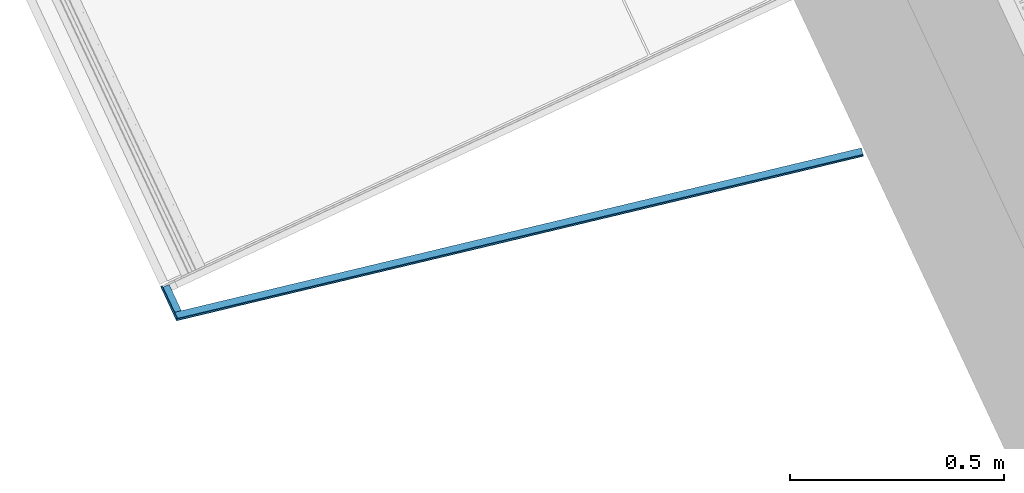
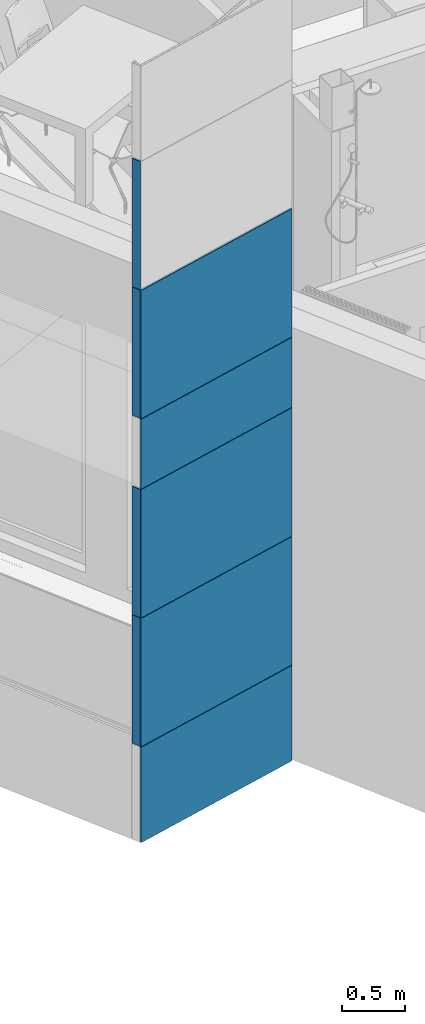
# One storey, part 9 of 125: 18 building element parts, 2 elements without a shape of their own.
"""IFC2X3 building model written with IfcOpenShell, lengths in millimetres."""

from ifc_helpers import new_model, entity, si_unit, converted_unit, direction, frame, origin, place, context, subcontext, project, spatial, polyline, outline, extrude, material, type_object, element, aggregate, save


model = new_model("IFC2X3")

# Units and contexts
model_context = context("Model", 3, precision=0.01, world=origin(), true_north=direction((6.123233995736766e-17, 1.0)))
plan_context = context("Plan", 3, precision=0.01, world=origin(), true_north=direction((6.123233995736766e-17, 1.0)))
body_context = subcontext(model_context, "Body", "Model", "MODEL_VIEW")
ifc_project = project(units=[si_unit("LENGTHUNIT", "METRE", prefix="MILLI"), converted_unit("PLANEANGLEUNIT", "DEGREE", entity("IfcPlaneAngleMeasure", 0.017453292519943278), si_unit("PLANEANGLEUNIT", "RADIAN"), dimensions=[0, 0, 0, 0, 0, 0, 0]), si_unit("AREAUNIT", "SQUARE_METRE")], contexts=[model_context, plan_context])

# Site, building, storey
site_placement = place(None, origin())
site = spatial("IfcSite", under=ifc_project, at=site_placement, Name="Default", CompositionType="ELEMENT")
building_placement = place(site_placement, origin())
building = spatial("IfcBuilding", under=site, at=building_placement, CompositionType="ELEMENT")
storey_placement = place(building_placement, frame((0.0, 0.0, 3125.0)))
storey = spatial("IfcBuildingStorey", under=building, at=storey_placement, Name="2K", CompositionType="ELEMENT", Elevation=3125.0)

# Wall, building element parts
wall_type = type_object("IfcWallType", Name="Basic Wall:VS-komposiit", PredefinedType="STANDARD")
wall_1_placement = place(storey_placement, frame((-2106.893259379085, 7897.753671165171, -1010.0), z_axis=(0.0, 0.0, 1.0), x_axis=(-0.9725243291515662, -0.23280126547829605, 0.0)))
wall_1 = element("IfcWall", 1, at=wall_1_placement, inside=storey, type_object=wall_type, Name="Basic Wall:VS-komposiit", ObjectType="Basic Wall:VS-komposiit")
ifc_material_1 = material(Name="_K. Õhk. Roov. Fassaadikatte alusroov. Horisontaalne. 25 mm")
building_element_part_1_placement = place(wall_1_placement, origin())
building_element_part_1 = element("IfcBuildingElementPart", 2, at=building_element_part_1_placement, material=ifc_material_1, Name="Part", context=body_context, shape_type="SweptSolid", body=[
    extrude(outline(polyline([(-823.1816052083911, -8.0), (824.8314718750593, -8.0), (821.5317385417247, 8.0), (-823.1816052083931, 8.0), (-823.1816052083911, -8.0)])), frame((823.1816052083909, -2.0, 2172.4999999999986)), (0.0, 0.0, 1.0), 1240.0000000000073),
])
building_element_part_2_placement = place(wall_1_placement, origin())
building_element_part_2 = element("IfcBuildingElementPart", 3, at=building_element_part_2_placement, material=ifc_material_1, Name="Part", context=body_context, shape_type="SweptSolid", body=[
    extrude(outline(polyline([(-823.1816052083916, -8.0), (824.8314718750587, -8.0), (821.5317385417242, 8.0), (-823.1816052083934, 8.0), (-823.1816052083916, -8.0)])), frame((823.181605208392, -2.0, 927.4999999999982)), (0.0, 0.0, 1.0), 1240.0000000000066),
])
building_element_part_3_placement = place(wall_1_placement, origin())
building_element_part_3 = element("IfcBuildingElementPart", 4, at=building_element_part_3_placement, material=ifc_material_1, Name="Part", context=body_context, shape_type="SweptSolid", body=[
    extrude(outline(polyline([(-823.1816052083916, -8.0), (824.8314718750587, -8.0), (821.5317385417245, 8.0), (-823.1816052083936, 8.0), (-823.1816052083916, -8.0)])), frame((823.181605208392, -2.0, 4097.499999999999)), (0.0, 0.0, 1.0), 1240.000000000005),
])
building_element_part_4_placement = place(wall_1_placement, origin())
building_element_part_4 = element("IfcBuildingElementPart", 5, at=building_element_part_4_placement, material=ifc_material_1, Name="Part", context=body_context, shape_type="SweptSolid", body=[
    extrude(outline(polyline([(-823.1816052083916, -8.0), (824.8314718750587, -8.0), (821.5317385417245, 8.0), (-823.1816052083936, 8.0), (-823.1816052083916, -8.0)])), frame((823.181605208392, -2.0, 3417.500000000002)), (0.0, 0.0, 1.0), 675.0000000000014),
])
building_element_part_5_placement = place(wall_1_placement, origin())
building_element_part_5 = element("IfcBuildingElementPart", 6, at=building_element_part_5_placement, material=ifc_material_1, Name="Part", context=body_context, shape_type="SweptSolid", body=[
    extrude(outline(polyline([(-823.1816052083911, -8.0), (824.8314718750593, -8.0), (821.5317385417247, 8.0), (-823.1816052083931, 8.0), (-823.1816052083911, -8.0)])), frame((823.1816052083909, -2.0, 0.0)), (0.0, 0.0, 1.0), 922.5000000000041),
])
ifc_material_2 = material(Name="_K. Välisviimistlus. Alumiinium-komposiitplaat")
building_element_part_6_placement = place(wall_1_placement, origin())
building_element_part_6 = element("IfcBuildingElementPart", 7, at=building_element_part_6_placement, material=ifc_material_2, Name="Part", context=body_context, shape_type="SweptSolid", body=[
    extrude(outline(polyline([(-824.1925278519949, -2.0), (824.6049945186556, -2.0), (823.7800611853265, 2.0), (-824.1925278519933, 2.0), (-824.1925278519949, -2.0)])), frame((824.1925278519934, 8.0, 2172.4999999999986)), (0.0, 0.0, 1.0), 1240.000000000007),
])
building_element_part_7_placement = place(wall_1_placement, origin())
building_element_part_7 = element("IfcBuildingElementPart", 8, at=building_element_part_7_placement, material=ifc_material_2, Name="Part", context=body_context, shape_type="SweptSolid", body=[
    extrude(outline(polyline([(-824.1925278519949, -2.0), (824.6049945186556, -2.0), (823.7800611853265, 2.0), (-824.1925278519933, 2.0), (-824.1925278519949, -2.0)])), frame((824.1925278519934, 8.0, 927.4999999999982)), (0.0, 0.0, 1.0), 1240.0000000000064),
])
building_element_part_8_placement = place(wall_1_placement, origin())
building_element_part_8 = element("IfcBuildingElementPart", 9, at=building_element_part_8_placement, material=ifc_material_2, Name="Part", context=body_context, shape_type="SweptSolid", body=[
    extrude(outline(polyline([(-824.1925278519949, -2.0), (824.6049945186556, -2.0), (823.7800611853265, 2.0), (-824.1925278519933, 2.0), (-824.1925278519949, -2.0)])), frame((824.1925278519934, 8.0, 4097.499999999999)), (0.0, 0.0, 1.0), 1240.0000000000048),
])
building_element_part_9_placement = place(wall_1_placement, origin())
building_element_part_9 = element("IfcBuildingElementPart", 10, at=building_element_part_9_placement, material=ifc_material_2, Name="Part", context=body_context, shape_type="SweptSolid", body=[
    extrude(outline(polyline([(-824.1925278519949, -2.0), (824.6049945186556, -2.0), (823.7800611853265, 2.0), (-824.1925278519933, 2.0), (-824.1925278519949, -2.0)])), frame((824.1925278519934, 8.0, 3417.500000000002)), (0.0, 0.0, 1.0), 675.0000000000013),
])
building_element_part_10_placement = place(wall_1_placement, origin())
building_element_part_10 = element("IfcBuildingElementPart", 11, at=building_element_part_10_placement, material=ifc_material_2, Name="Part", context=body_context, shape_type="SweptSolid", body=[
    extrude(outline(polyline([(-824.192527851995, -2.0), (824.6049945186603, -2.0), (823.7800611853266, 2.0), (-824.1925278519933, 2.0), (-824.192527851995, -2.0)])), frame((824.1925278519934, 8.0, 0.0)), (0.0, 0.0, 1.0), 922.5000000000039),
])
aggregate(wall_1, [building_element_part_1, building_element_part_2, building_element_part_3, building_element_part_4, building_element_part_5, building_element_part_6, building_element_part_7, building_element_part_8, building_element_part_9, building_element_part_10])

wall_2_placement = place(storey_placement, frame((-3705.120810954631, 7523.378231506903, -1010.0), z_axis=(0.0, 0.0, 1.0), x_axis=(-0.4244360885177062, 0.9054578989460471, 0.0)))
wall_2 = element("IfcWall", 12, at=wall_2_placement, inside=storey, type_object=wall_type, Name="Basic Wall:VS-komposiit", ObjectType="Basic Wall:VS-komposiit")
building_element_part_11_placement = place(wall_2_placement, origin())
building_element_part_11 = element("IfcBuildingElementPart", 13, at=building_element_part_11_placement, material=ifc_material_1, Name="Part", context=body_context, shape_type="SweptSolid", body=[
    extrude(outline(polyline([(-34.7128112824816, -8.0), (33.062944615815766, -8.0), (33.06294461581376, 8.0), (-31.413077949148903, 8.0), (-34.7128112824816, -8.0)])), frame((34.712811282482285, -2.0, 2172.5)), (0.0, 0.0, 1.0), 1240.0000000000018),
])
building_element_part_12_placement = place(wall_2_placement, origin())
building_element_part_12 = element("IfcBuildingElementPart", 14, at=building_element_part_12_placement, material=ifc_material_1, Name="Part", context=body_context, shape_type="SweptSolid", body=[
    extrude(outline(polyline([(-34.7128112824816, -8.0), (33.062944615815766, -8.0), (33.06294461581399, 8.0), (-31.413077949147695, 8.0), (-34.7128112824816, -8.0)])), frame((34.712811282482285, -2.0, 927.5000000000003)), (0.0, 0.0, 1.0), 1240.0000000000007),
])
building_element_part_13_placement = place(wall_2_placement, origin())
building_element_part_13 = element("IfcBuildingElementPart", 15, at=building_element_part_13_placement, material=ifc_material_1, Name="Part", context=body_context, shape_type="SweptSolid", body=[
    extrude(outline(polyline([(-34.7128112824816, -8.0), (33.062944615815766, -8.0), (33.06294461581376, 8.0), (-31.413077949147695, 8.0), (-34.7128112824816, -8.0)])), frame((34.712811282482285, -2.0, 5342.499999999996)), (0.0, 0.0, 1.0), 1240.0000000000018),
])
building_element_part_14_placement = place(wall_2_placement, origin())
building_element_part_14 = element("IfcBuildingElementPart", 16, at=building_element_part_14_placement, material=ifc_material_1, Name="Part", context=body_context, shape_type="SweptSolid", body=[
    extrude(outline(polyline([(-34.7128112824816, -8.0), (33.062944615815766, -8.0), (33.06294461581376, 8.0), (-31.413077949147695, 8.0), (-34.7128112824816, -8.0)])), frame((34.712811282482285, -2.0, 4097.499999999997)), (0.0, 0.0, 1.0), 1239.9999999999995),
])
building_element_part_15_placement = place(wall_2_placement, origin())
building_element_part_15 = element("IfcBuildingElementPart", 17, at=building_element_part_15_placement, material=ifc_material_2, Name="Part", context=body_context, shape_type="SweptSolid", body=[
    extrude(outline(polyline([(-2.0, -42.20013519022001), (2.0, -42.20013519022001), (2.0, 41.787668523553), (-2.0, 42.612601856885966), (-2.0, -42.20013519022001)])), frame((29.575620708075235, 8.0, 2172.5), z_axis=(0.0, 0.0, 1.0), x_axis=(0.0, 1.0, 0.0)), (0.0, 0.0, 1.0), 1240.0000000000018),
])
building_element_part_16_placement = place(wall_2_placement, origin())
building_element_part_16 = element("IfcBuildingElementPart", 18, at=building_element_part_16_placement, material=ifc_material_2, Name="Part", context=body_context, shape_type="SweptSolid", body=[
    extrude(outline(polyline([(-2.0, -42.20013519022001), (2.0, -42.20013519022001), (2.0, 41.787668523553), (-2.0, 42.612601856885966), (-2.0, -42.20013519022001)])), frame((29.575620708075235, 8.0, 927.5000000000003), z_axis=(0.0, 0.0, 1.0), x_axis=(0.0, 1.0, 0.0)), (0.0, 0.0, 1.0), 1240.0000000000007),
])
building_element_part_17_placement = place(wall_2_placement, origin())
building_element_part_17 = element("IfcBuildingElementPart", 19, at=building_element_part_17_placement, material=ifc_material_2, Name="Part", context=body_context, shape_type="SweptSolid", body=[
    extrude(outline(polyline([(-2.0, -42.20013519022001), (2.0, -42.20013519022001), (2.0, 41.787668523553), (-2.0, 42.61260185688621), (-2.0, -42.20013519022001)])), frame((29.575620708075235, 8.0, 5342.499999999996), z_axis=(0.0, 0.0, 1.0), x_axis=(0.0, 1.0, 0.0)), (0.0, 0.0, 1.0), 1240.0000000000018),
])
building_element_part_18_placement = place(wall_2_placement, origin())
building_element_part_18 = element("IfcBuildingElementPart", 20, at=building_element_part_18_placement, material=ifc_material_2, Name="Part", context=body_context, shape_type="SweptSolid", body=[
    extrude(outline(polyline([(-2.0, -42.20013519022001), (2.0, -42.20013519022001), (2.0, 41.787668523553), (-2.0, 42.612601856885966), (-2.0, -42.20013519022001)])), frame((29.575620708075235, 8.0, 4097.499999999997), z_axis=(0.0, 0.0, 1.0), x_axis=(0.0, 1.0, 0.0)), (0.0, 0.0, 1.0), 1239.9999999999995),
])
aggregate(wall_2, [building_element_part_11, building_element_part_12, building_element_part_13, building_element_part_14, building_element_part_15, building_element_part_16, building_element_part_17, building_element_part_18])

save(model, "model.ifc")
